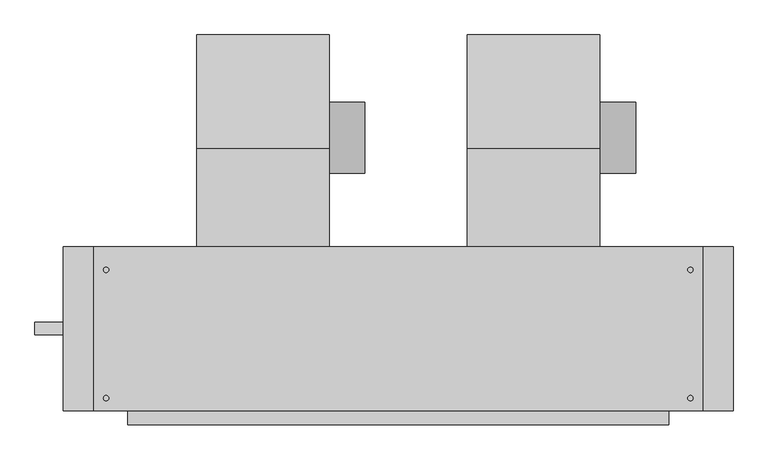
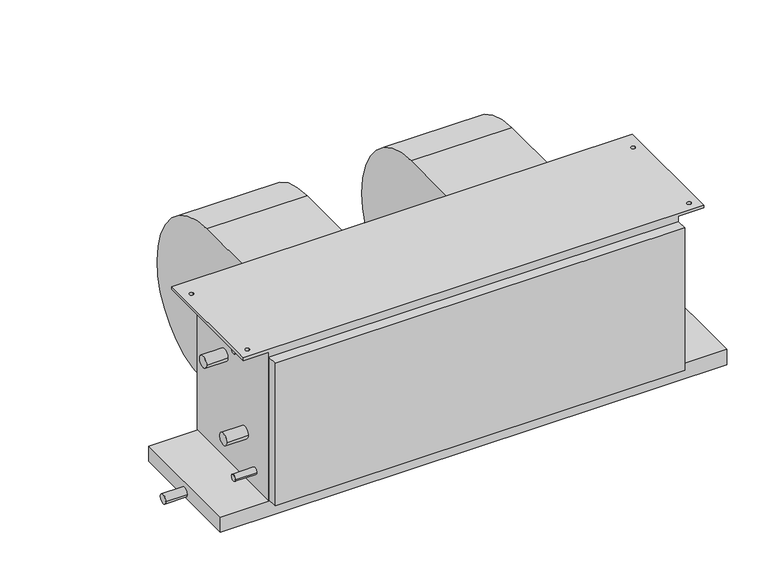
"""IFC4 building model written with IfcOpenShell, lengths in millimetres: proxy geometry, Concealed_High_Capacity_Horizontal_Fan_Coil_Unit_-_42DAA_-_CARRIER_-_4-Pipe_LH_2022 : Size 16 - 277v/60Hz/1Ph - 6/2 Coil."""

import ifcopenshell
import ifcopenshell.guid

model = None  # the IFC model being written
_history = None  # IfcOwnerHistory: only IFC2X3 demands one
_inside = {}  # id of a spatial element -> (the spatial element, [elements in it])
_under = {}  # id of a project, library or spatial element -> (it, [spatial elements below it])
_declared = {}  # id of a project -> (the project, [libraries it declares])
_typed = {}  # id of a type object -> (the type object, [elements of that type])
_made_of = {}  # id of a material, layer set ... -> (it, [elements and type objects made of it])


def new_model(schema):
    """Start an empty IFC model of exactly this schema.

    Asked for "IFC4X3", IfcOpenShell would pick the latest addendum, in which some entities
    have other attributes; the version numbers below select the first issue.
    IFC2X3 requires an IfcOwnerHistory on every rooted entity: one is made here for all.
    """
    global model, _history
    if schema == "IFC4X3":
        model = ifcopenshell.file(schema_version=(4, 3, 0, 0))
    else:
        model = ifcopenshell.file(schema=schema)
    _inside.clear()
    _under.clear()
    _declared.clear()
    _typed.clear()
    _made_of.clear()
    _history = None
    if model.schema == "IFC2X3":
        org = make("IfcOrganization", Name="unknown")
        user = make(
            "IfcPersonAndOrganization",
            ThePerson=make("IfcPerson", FamilyName="unknown"),
            TheOrganization=org,
        )
        app = make(
            "IfcApplication",
            ApplicationDeveloper=org,
            Version="unknown",
            ApplicationFullName="unknown",
            ApplicationIdentifier="unknown",
        )
        _history = make(
            "IfcOwnerHistory",
            OwningUser=user,
            OwningApplication=app,
            ChangeAction="ADDED",
            CreationDate=0,
        )
    return model


def make(cls, **values):
    """One entity of the class cls with the attributes given. An attribute that is None is left unset."""
    return model.create_entity(
        cls, **{name: value for name, value in values.items() if value is not None}
    )


def rooted(cls, **values):
    """An entity with a GlobalId (a new one), such as an element, a storey or a relation."""
    return make(cls, GlobalId=ifcopenshell.guid.new(), OwnerHistory=_history, **values)


def si_unit(unit_type, name, prefix=None):
    """IfcSIUnit, for example si_unit("LENGTHUNIT", "METRE", prefix="MILLI")."""
    return make("IfcSIUnit", UnitType=unit_type, Prefix=prefix, Name=name)


def assignment(units):
    """IfcUnitAssignment: the units of a project."""
    return None if units is None else make("IfcUnitAssignment", Units=units)


def point(xyz):
    """IfcCartesianPoint."""
    return None if xyz is None else make("IfcCartesianPoint", Coordinates=xyz)


def direction(xyz):
    """IfcDirection."""
    return None if xyz is None else make("IfcDirection", DirectionRatios=xyz)


def frame(location, z_axis=None, x_axis=None):
    """IfcAxis2Placement3D, a coordinate frame: its origin and axes. An axis left out is left unset."""
    return make(
        "IfcAxis2Placement3D",
        Location=point(location),
        Axis=direction(z_axis),
        RefDirection=direction(x_axis),
    )


def frame_2d(location, x_axis=None):
    """IfcAxis2Placement2D, a coordinate frame in the plane: its origin and x axis."""
    return make(
        "IfcAxis2Placement2D", Location=point(location), RefDirection=direction(x_axis)
    )


def origin():
    """The frame at (0, 0, 0) with its axes left unset."""
    return frame((0.0, 0.0, 0.0))


def place(relative_to, where):
    """IfcLocalPlacement: puts the frame where relative to a parent placement (None: the world)."""
    return make(
        "IfcLocalPlacement", PlacementRelTo=relative_to, RelativePlacement=where
    )


def context(
    kind, dimensions, precision=None, world=None, true_north=None, identifier=None
):
    """IfcGeometricRepresentationContext, for example the 3D "Model" context."""
    return make(
        "IfcGeometricRepresentationContext",
        ContextIdentifier=identifier,
        ContextType=kind,
        CoordinateSpaceDimension=dimensions,
        Precision=precision,
        WorldCoordinateSystem=world,
        TrueNorth=true_north,
    )


def project(units=None, contexts=None):
    """IfcProject with its units and contexts."""
    return rooted(
        "IfcProject",
        Name="project",
        RepresentationContexts=contexts,
        UnitsInContext=assignment(units),
    )


def spatial(cls, under=None, at=None, **own):
    """A site, building, storey or space (cls), placed at a placement, below another one or the project."""
    s = rooted(cls, ObjectPlacement=at, **own)
    if under is not None:
        _under.setdefault(under.id(), (under, []))[1].append(s)
    return s


def polyline(points):
    """IfcPolyline through the points."""
    return make("IfcPolyline", Points=[point(p) for p in points])


def circle_curve(where, radius):
    """IfcCircle in the frame where."""
    return make("IfcCircle", Position=where, Radius=radius)


def trimmed(basis, trim1, trim2, sense, master):
    """IfcTrimmedCurve: the piece of a basis curve between two trims."""
    return make(
        "IfcTrimmedCurve",
        BasisCurve=basis,
        Trim1=trim1,
        Trim2=trim2,
        SenseAgreement=sense,
        MasterRepresentation=master,
    )


def segment(curve, same_sense, transition):
    """IfcCompositeCurveSegment."""
    return make(
        "IfcCompositeCurveSegment",
        Transition=transition,
        SameSense=same_sense,
        ParentCurve=curve,
    )


def composite_curve(segments, self_intersect=None):
    """IfcCompositeCurve: segments joined end to end."""
    return make("IfcCompositeCurve", Segments=segments, SelfIntersect=self_intersect)


def outline(outer, holes=None, kind="AREA"):
    """IfcArbitraryClosedProfileDef: a profile drawn as a closed curve; with holes, ...WithVoids."""
    if holes is None:
        return make("IfcArbitraryClosedProfileDef", ProfileType=kind, OuterCurve=outer)
    return make(
        "IfcArbitraryProfileDefWithVoids",
        ProfileType=kind,
        OuterCurve=outer,
        InnerCurves=holes,
    )


def extrude(swept, where, along, depth):
    """IfcExtrudedAreaSolid: the profile swept, set in the frame where, extruded along a direction by depth."""
    return make(
        "IfcExtrudedAreaSolid",
        SweptArea=swept,
        Position=where,
        ExtrudedDirection=direction(along),
        Depth=depth,
    )


def shape(context_of_items, identifier, shape_type, items):
    """IfcShapeRepresentation: the items that make up one representation, for example the "Body"."""
    return make(
        "IfcShapeRepresentation",
        ContextOfItems=context_of_items,
        RepresentationIdentifier=identifier,
        RepresentationType=shape_type,
        Items=items,
    )


def source(mapping_origin, context_of_items, identifier, shape_type, items):
    """IfcRepresentationMap: a shape defined once, which mapped items show again and again."""
    return make(
        "IfcRepresentationMap",
        MappingOrigin=mapping_origin,
        MappedRepresentation=shape(context_of_items, identifier, shape_type, items),
    )


def transform(
    local_origin,
    x_axis=None,
    y_axis=None,
    z_axis=None,
    scale=None,
    scale2=None,
    scale3=None,
    uniform=True,
):
    """IfcCartesianTransformationOperator3D, or its non-uniform kind. x_axis, y_axis, z_axis: its Axis1, 2, 3."""
    if uniform:
        return make(
            "IfcCartesianTransformationOperator3D",
            Axis1=direction(x_axis),
            Axis2=direction(y_axis),
            LocalOrigin=point(local_origin),
            Scale=scale,
            Axis3=direction(z_axis),
        )
    return make(
        "IfcCartesianTransformationOperator3DnonUniform",
        Axis1=direction(x_axis),
        Axis2=direction(y_axis),
        LocalOrigin=point(local_origin),
        Scale=scale,
        Axis3=direction(z_axis),
        Scale2=scale2,
        Scale3=scale3,
    )


def mapped(mapping_source, mapping_target):
    """IfcMappedItem: shows the shape of a source again, moved by a transform."""
    return make(
        "IfcMappedItem", MappingSource=mapping_source, MappingTarget=mapping_target
    )


def made_of(thing, what):
    """Note that an element or type object is made of a material, layer set ...; save() writes the relation."""
    if what is not None:
        _made_of.setdefault(what.id(), (what, []))[1].append(thing)
    return thing


def element(
    cls,
    number,
    at=None,
    inside=None,
    cuts=None,
    type_object=None,
    material=None,
    context=None,
    identifier="Body",
    shape_type=None,
    held_by="IfcProductDefinitionShape",
    body=None,
    shapes=None,
    **own,
):
    """One element of the class cls, such as IfcWall. Its Tag is "e" and its number.

    at: its placement. inside: the storey or other place that contains it. cuts: it is an
    opening in that element (IfcRelVoidsElement). A single representation is given by context,
    identifier, shape_type and body (its items); several are given by shapes. held_by: the class
    of the entity that holds the representations. save() writes the other relations.
    """
    e = rooted(cls, Tag="e%d" % number, ObjectPlacement=at, **own)
    if body is not None:
        shapes = [shape(context, identifier, shape_type, body)]
    if shapes is not None:
        e.Representation = make(held_by, Representations=shapes)
    if inside is not None:
        _inside.setdefault(inside.id(), (inside, []))[1].append(e)
    if cuts is not None:
        rooted(
            "IfcRelVoidsElement", RelatingBuildingElement=cuts, RelatedOpeningElement=e
        )
    if type_object is not None:
        _typed.setdefault(type_object.id(), (type_object, []))[1].append(e)
    return made_of(e, material)


def aggregate(whole, parts):
    """IfcRelAggregates: a whole, such as a stair, and the parts it consists of."""
    return rooted("IfcRelAggregates", RelatingObject=whole, RelatedObjects=parts)


def save(model, path):
    """Write the relations noted so far, then the file.

    IfcRelAggregates (storeys below a building ...), IfcRelContainedInSpatialStructure (elements
    in a storey), IfcRelDefinesByType, IfcRelAssociatesMaterial and IfcRelDeclares: one each for
    every whole, place, type object, material and project.
    """
    for whole, parts in _under.values():
        aggregate(whole, parts)
    for where, things in _inside.values():
        rooted(
            "IfcRelContainedInSpatialStructure",
            RelatedElements=things,
            RelatingStructure=where,
        )
    for kind, things in _typed.values():
        rooted("IfcRelDefinesByType", RelatedObjects=things, RelatingType=kind)
    for what, things in _made_of.values():
        rooted("IfcRelAssociatesMaterial", RelatedObjects=things, RelatingMaterial=what)
    for by, libraries in _declared.values():
        rooted("IfcRelDeclares", RelatingContext=by, RelatedDefinitions=libraries)
    model.write(path)


def plane_surface(at):
    """IfcPlane: the flat surface through the origin of the frame at, square to its z axis."""
    return make("IfcPlane", Position=at)


def cylinder_surface(at, radius):
    """IfcCylindricalSurface: all points at the distance radius from the z axis of the frame at."""
    return make("IfcCylindricalSurface", Position=at, Radius=radius)


def revolved_surface(curve, axis_point, axis_direction):
    """IfcSurfaceOfRevolution: the curve turned about the line through axis_point along axis_direction."""
    return make(
        "IfcSurfaceOfRevolution",
        SweptCurve=make("IfcArbitraryOpenProfileDef", ProfileType="CURVE", Curve=curve),
        AxisPosition=make("IfcAxis1Placement", Location=point(axis_point), Axis=direction(axis_direction)),
    )


def advanced_brep(points, edges, surfaces, faces):
    """IfcAdvancedBrep: a solid bounded by faces that lie on surfaces and meet in shared edges.

    An edge is (start, end): straight between two places in points (the first is 0);
    or (start, end, curve); or (start, end, curve, False) where it runs against its curve.
    A face is (place in surfaces, loops), or (place, loops, False) where it looks against
    its surface's normal. A loop lists edges by number (the first is 1), with a minus sign
    where the edge is run from its end to its start. The first loop is the outer one.
    """
    corners = [point(p) for p in points]
    vertices = [make("IfcVertexPoint", VertexGeometry=c) for c in corners]
    made = []
    for start, end, *more in edges:
        made.append(
            make(
                "IfcEdgeCurve",
                EdgeStart=vertices[start],
                EdgeEnd=vertices[end],
                EdgeGeometry=more[0] if more else make("IfcPolyline", Points=[corners[start], corners[end]]),
                SameSense=more[1] if len(more) > 1 else True,
            )
        )
    hull = []
    for where, loops, *sense in faces:
        bounds = []
        for j, loop in enumerate(loops):
            ring = [make("IfcOrientedEdge", EdgeElement=made[abs(k) - 1], Orientation=k > 0) for k in loop]
            bounds.append(
                make(
                    "IfcFaceOuterBound" if j == 0 else "IfcFaceBound",
                    Bound=make("IfcEdgeLoop", EdgeList=ring),
                    Orientation=True,
                )
            )
        hull.append(make("IfcAdvancedFace", Bounds=bounds, FaceSurface=surfaces[where], SameSense=sense[0] if sense else True))
    return make("IfcAdvancedBrep", Outer=make("IfcClosedShell", CfsFaces=hull))


def mechanical_equipment_1f24bf90(model_context):
    return source(origin(), model_context, "Body", "SolidModel", [
        extrude(outline(composite_curve([segment(trimmed(circle_curve(frame_2d((117.8757598, -213.2397468)), 63.5), [point((181.3757598, -213.2397468))], [point((54.3757598, -213.2397468))], False, "CARTESIAN"), True, "CONTINUOUS"), segment(trimmed(circle_curve(frame_2d((117.8757598, -213.2397468)), 63.5), [point((54.3757598, -213.2397468))], [point((181.3757598, -213.2397468))], False, "CARTESIAN"), True, "CONTINUOUS")], self_intersect=False)), frame((156.337, 0.0, 0.0), z_axis=(1.0, 0.0, 0.0), x_axis=(0.0, 1.0, 0.0)), (0.0, 0.0, 1.0), 63.5),
        advanced_brep(
        [(-80.137, 301.3905957, -228.379602), (-80.137, 120.4976, -409.99664), (-80.137, -35.0266, -283.45638), (-80.137, -76.2, -283.45638), (-80.137, -76.2, -25.4), (-80.137, 98.8830093, -25.4), (156.337, 301.3905957, -228.379602), (156.337, 98.8830093, -25.4), (156.337, -76.2, -25.4), (156.337, -76.2, -283.45638), (156.337, -35.0266, -283.45638), (156.337, 120.497599, -409.9957839)],
        [
            (0, 1, circle_curve(frame((-80.137, 120.31726, -228.92258), z_axis=(-1.0, 0.0, 0.0), x_axis=(0.0, -1.0, 0.0)), 181.0741498)),
            (1, 2, circle_curve(frame((-80.137, 120.31726, -251.37364), z_axis=(-1.0, 0.0, 0.0), x_axis=(0.0, -1.0, 0.0)), 158.6222464)),
            (2, 3),
            (3, 4),
            (4, 5),
            (5, 0, circle_curve(frame((-80.137, 97.8662, -228.92258), z_axis=(-1.0, 0.0, 0.0), x_axis=(0.0, -1.0, 0.0)), 203.52512)),
            (6, 7, circle_curve(frame((156.337, 97.8662, -228.92258), z_axis=(1.0, 0.0, 0.0), x_axis=(0.0, -1.0, 0.0)), 203.52512)),
            (7, 8),
            (8, 9),
            (9, 10),
            (10, 11, circle_curve(frame((156.337, 120.31726, -251.37364), z_axis=(1.0, 0.0, 0.0), x_axis=(0.0, -1.0, 0.0)), 158.6222464)),
            (11, 6, circle_curve(frame((156.337, 120.31726, -228.92258), z_axis=(1.0, 0.0, 0.0), x_axis=(0.0, -1.0, 0.0)), 181.0741498)),
            (0, 6),
            (11, 1),
            (10, 2),
            (9, 3),
            (8, 4),
            (7, 5),
        ],
        [
            plane_surface(frame((-80.137, -60.7568898, -228.92258), z_axis=(-1.0, 0.0, 0.0), x_axis=(0.0, 0.0, 1.0))),
            plane_surface(frame((156.337, -60.7568898, -228.92258), z_axis=(1.0, 0.0, 0.0), x_axis=(0.0, 0.0, -1.0))),
            cylinder_surface(frame((156.337, 120.31726, -228.92258), z_axis=(-1.0, 0.0, 0.0), x_axis=(0.0, -1.0, 0.0)), 181.0741498),
            cylinder_surface(frame((156.337, 120.31726, -251.37364), z_axis=(-1.0, 0.0, 0.0), x_axis=(0.0, -1.0, 0.0)), 158.6222464),
            plane_surface(frame((-80.137, -35.0266, -283.45638), z_axis=(0.0, 0.0, -1.0), x_axis=(1.0, 0.0, 0.0))),
            plane_surface(frame((-80.137, -76.2, -283.45638), z_axis=(0.0, -1.0, 0.0), x_axis=(1.0, 0.0, 0.0))),
            plane_surface(frame((-80.137, -76.2, -25.4), z_axis=(0.0, 0.0, 1.0), x_axis=(1.0, 0.0, 0.0))),
            cylinder_surface(frame((156.337, 97.8662, -228.92258), z_axis=(-1.0, 0.0, 0.0), x_axis=(0.0, -1.0, 0.0)), 203.52512),
        ],
        [
            (0, [[1, 2, 3, 4, 5, 6]]),
            (1, [[7, 8, 9, 10, 11, 12]]),
            (2, [[-1, 13, -12, 14]]),
            (3, [[-2, -14, -11, 15]]),
            (4, [[-3, -15, -10, 16]]),
            (5, [[-4, -16, -9, 17]]),
            (6, [[-5, -17, -8, 18]]),
            (7, [[-6, -18, -7, -13]]),
        ],
    ),
        extrude(outline(composite_curve([segment(trimmed(circle_curve(frame_2d((117.8757598, -213.2397468)), 63.5), [point((181.3757598, -213.2397468))], [point((54.3757598, -213.2397468))], False, "CARTESIAN"), True, "CONTINUOUS"), segment(trimmed(circle_curve(frame_2d((117.8757598, -213.2397468)), 63.5), [point((54.3757598, -213.2397468))], [point((181.3757598, -213.2397468))], False, "CARTESIAN"), True, "CONTINUOUS")], self_intersect=False)), frame((638.937, 0.0, 0.0), z_axis=(1.0, 0.0, 0.0), x_axis=(0.0, 1.0, 0.0)), (0.0, 0.0, 1.0), 63.5),
        advanced_brep(
        [(402.463, 301.3905957, -228.379602), (402.463, 120.4976, -409.99664), (402.463, -35.0266, -283.45638), (402.463, -76.2, -283.45638), (402.463, -76.2, -25.4), (402.463, 98.8830093, -25.4), (638.937, 301.3905957, -228.379602), (638.937, 98.8830093, -25.4), (638.937, -76.2, -25.4), (638.937, -76.2, -283.45638), (638.937, -35.0266, -283.45638), (638.937, 120.497599, -409.9957839)],
        [
            (0, 1, circle_curve(frame((402.463, 120.31726, -228.92258), z_axis=(-1.0, 0.0, 0.0), x_axis=(0.0, -1.0, 0.0)), 181.0741498)),
            (1, 2, circle_curve(frame((402.463, 120.31726, -251.37364), z_axis=(-1.0, 0.0, 0.0), x_axis=(0.0, -1.0, 0.0)), 158.6222464)),
            (2, 3),
            (3, 4),
            (4, 5),
            (5, 0, circle_curve(frame((402.463, 97.8662, -228.92258), z_axis=(-1.0, 0.0, 0.0), x_axis=(0.0, -1.0, 0.0)), 203.52512)),
            (6, 7, circle_curve(frame((638.937, 97.8662, -228.92258), z_axis=(1.0, 0.0, 0.0), x_axis=(0.0, -1.0, 0.0)), 203.52512)),
            (7, 8),
            (8, 9),
            (9, 10),
            (10, 11, circle_curve(frame((638.937, 120.31726, -251.37364), z_axis=(1.0, 0.0, 0.0), x_axis=(0.0, -1.0, 0.0)), 158.6222464)),
            (11, 6, circle_curve(frame((638.937, 120.31726, -228.92258), z_axis=(1.0, 0.0, 0.0), x_axis=(0.0, -1.0, 0.0)), 181.0741498)),
            (0, 6),
            (11, 1),
            (10, 2),
            (9, 3),
            (8, 4),
            (7, 5),
        ],
        [
            plane_surface(frame((402.463, -60.7568898, -228.92258), z_axis=(-1.0, 0.0, 0.0), x_axis=(0.0, 0.0, 1.0))),
            plane_surface(frame((638.937, -60.7568898, -228.92258), z_axis=(1.0, 0.0, 0.0), x_axis=(0.0, 0.0, -1.0))),
            cylinder_surface(frame((638.937, 120.31726, -228.92258), z_axis=(-1.0, 0.0, 0.0), x_axis=(0.0, -1.0, 0.0)), 181.0741498),
            cylinder_surface(frame((638.937, 120.31726, -251.37364), z_axis=(-1.0, 0.0, 0.0), x_axis=(0.0, -1.0, 0.0)), 158.6222464),
            plane_surface(frame((402.463, -35.0266, -283.45638), z_axis=(0.0, 0.0, -1.0), x_axis=(1.0, 0.0, 0.0))),
            plane_surface(frame((402.463, -76.2, -283.45638), z_axis=(0.0, -1.0, 0.0), x_axis=(1.0, 0.0, 0.0))),
            plane_surface(frame((402.463, -76.2, -25.4), z_axis=(0.0, 0.0, 1.0), x_axis=(1.0, 0.0, 0.0))),
            cylinder_surface(frame((638.937, 97.8662, -228.92258), z_axis=(-1.0, 0.0, 0.0), x_axis=(0.0, -1.0, 0.0)), 203.52512),
        ],
        [
            (0, [[1, 2, 3, 4, 5, 6]]),
            (1, [[7, 8, 9, 10, 11, 12]]),
            (2, [[-1, 13, -12, 14]]),
            (3, [[-2, -14, -11, 15]]),
            (4, [[-3, -15, -10, 16]]),
            (5, [[-4, -16, -9, 17]]),
            (6, [[-5, -17, -8, 18]]),
            (7, [[-6, -18, -7, -13]]),
        ],
    ),
        extrude(outline(polyline([(876.3, -76.2), (876.3, -368.3), (-317.5, -368.3), (-317.5, -76.2), (876.3, -76.2)])), frame((0.0, 0.0, -415.925), z_axis=(0.0, 0.0, 1.0), x_axis=(1.0, 0.0, 0.0)), (0.0, 0.0, 1.0), 38.1),
        extrude(outline(polyline([(762.0, -393.7), (-203.2, -393.7), (-203.2, -368.3), (762.0, -368.3), (762.0, -393.7)])), frame((0.0, 0.0, -374.65), z_axis=(0.0, 0.0, 1.0), x_axis=(1.0, 0.0, 0.0)), (0.0, 0.0, 1.0), 355.6),
        extrude(outline(composite_curve([segment(trimmed(circle_curve(frame_2d((-222.25, -403.225)), 11.1125), [point((-233.3625, -403.225))], [point((-211.1375, -403.225))], False, "CARTESIAN"), True, "CONTINUOUS"), segment(trimmed(circle_curve(frame_2d((-222.25, -403.225)), 11.1125), [point((-211.1375, -403.225))], [point((-233.3625, -403.225))], False, "CARTESIAN"), True, "CONTINUOUS")], self_intersect=False)), frame((-368.3, 0.0, 0.0), z_axis=(1.0, 0.0, 0.0), x_axis=(0.0, 1.0, 0.0)), (0.0, 0.0, 1.0), 50.8),
        extrude(outline(composite_curve([segment(trimmed(circle_curve(frame_2d((-187.325, -122.2375)), 14.2875), [point((-201.6125, -122.2375))], [point((-173.0375, -122.2375))], False, "CARTESIAN"), True, "CONTINUOUS"), segment(trimmed(circle_curve(frame_2d((-187.325, -122.2375)), 14.2875), [point((-173.0375, -122.2375))], [point((-201.6125, -122.2375))], False, "CARTESIAN"), True, "CONTINUOUS")], self_intersect=False)), frame((-254.0, 0.0, 0.0), z_axis=(1.0, 0.0, 0.0), x_axis=(0.0, 1.0, 0.0)), (0.0, 0.0, 1.0), 50.8),
        extrude(outline(composite_curve([segment(trimmed(circle_curve(frame_2d((-269.875, -265.1125)), 14.2875), [point((-284.1625, -265.1125))], [point((-255.5875, -265.1125))], False, "CARTESIAN"), True, "CONTINUOUS"), segment(trimmed(circle_curve(frame_2d((-269.875, -265.1125)), 14.2875), [point((-255.5875, -265.1125))], [point((-284.1625, -265.1125))], False, "CARTESIAN"), True, "CONTINUOUS")], self_intersect=False)), frame((-254.0, 0.0, 0.0), z_axis=(1.0, 0.0, 0.0), x_axis=(0.0, 1.0, 0.0)), (0.0, 0.0, 1.0), 50.8),
        extrude(outline(composite_curve([segment(trimmed(circle_curve(frame_2d((-311.15, -19.05)), 7.9375), [point((-319.0875, -19.05))], [point((-303.2125, -19.05))], False, "CARTESIAN"), True, "CONTINUOUS"), segment(trimmed(circle_curve(frame_2d((-311.15, -19.05)), 7.9375), [point((-303.2125, -19.05))], [point((-319.0875, -19.05))], False, "CARTESIAN"), True, "CONTINUOUS")], self_intersect=False)), frame((-254.0, 0.0, 0.0), z_axis=(1.0, 0.0, 0.0), x_axis=(0.0, 1.0, 0.0)), (0.0, 0.0, 1.0), 50.8),
        extrude(outline(composite_curve([segment(trimmed(circle_curve(frame_2d((-311.15, -336.55)), 7.9375), [point((-319.0875, -336.55))], [point((-303.2125, -336.55))], False, "CARTESIAN"), True, "CONTINUOUS"), segment(trimmed(circle_curve(frame_2d((-311.15, -336.55)), 7.9375), [point((-303.2125, -336.55))], [point((-319.0875, -336.55))], False, "CARTESIAN"), True, "CONTINUOUS")], self_intersect=False)), frame((-254.0, 0.0, 0.0), z_axis=(1.0, 0.0, 0.0), x_axis=(0.0, 1.0, 0.0)), (0.0, 0.0, 1.0), 50.8),
        advanced_brep(
        [(762.0, -76.2, -377.825), (762.0, -368.3, -377.825), (-203.2, -368.3, -377.825), (-203.2, -76.2, -377.825), (-203.2, -368.3, -6.35), (-203.2, -76.2, -6.35), (762.0, -76.2, -6.35), (762.0, -368.3, -6.35), (-263.525, -76.2, 0.0), (-263.525, -368.3, 0.0), (822.325, -368.3, 0.0), (822.325, -76.2, 0.0), (-236.5375, -117.475, 0.0), (-246.0625, -117.475, 0.0), (-236.5375, -346.075, 0.0), (-246.0625, -346.075, 0.0), (804.8625, -117.475, 0.0), (795.3375, -117.475, 0.0), (804.8625, -346.075, 0.0), (795.3375, -346.075, 0.0), (-263.525, -76.2, -6.35), (-263.525, -368.3, -6.35), (-246.0625, -117.475, -6.35), (-236.5375, -117.475, -6.35), (-246.0625, -346.075, -6.35), (-236.5375, -346.075, -6.35), (822.325, -76.2, -6.35), (822.325, -368.3, -6.35), (795.3375, -117.475, -6.35), (804.8625, -117.475, -6.35), (795.3375, -346.075, -6.35), (804.8625, -346.075, -6.35)],
        [
            (0, 1),
            (1, 2),
            (2, 3),
            (3, 0),
            (2, 4),
            (4, 5),
            (5, 3),
            (0, 6),
            (6, 7),
            (7, 1),
            (8, 9),
            (9, 10),
            (10, 11),
            (11, 8),
            (12, 13, circle_curve(frame((-241.3, -117.475, 0.0), z_axis=(0.0, 0.0, -1.0), x_axis=(1.0, 0.0, 0.0)), 4.7625)),
            (13, 12, circle_curve(frame((-241.3, -117.475, 0.0), z_axis=(0.0, 0.0, -1.0), x_axis=(1.0, 0.0, 0.0)), 4.7625)),
            (14, 15, circle_curve(frame((-241.3, -346.075, 0.0), z_axis=(0.0, 0.0, -1.0), x_axis=(1.0, 0.0, 0.0)), 4.7625)),
            (15, 14, circle_curve(frame((-241.3, -346.075, 0.0), z_axis=(0.0, 0.0, -1.0), x_axis=(1.0, 0.0, 0.0)), 4.7625)),
            (16, 17, circle_curve(frame((800.1, -117.475, 0.0), z_axis=(0.0, 0.0, -1.0), x_axis=(1.0, 0.0, 0.0)), 4.7625)),
            (17, 16, circle_curve(frame((800.1, -117.475, 0.0), z_axis=(0.0, 0.0, -1.0), x_axis=(1.0, 0.0, 0.0)), 4.7625)),
            (18, 19, circle_curve(frame((800.1, -346.075, 0.0), z_axis=(0.0, 0.0, -1.0), x_axis=(1.0, 0.0, 0.0)), 4.7625)),
            (19, 18, circle_curve(frame((800.1, -346.075, 0.0), z_axis=(0.0, 0.0, -1.0), x_axis=(1.0, 0.0, 0.0)), 4.7625)),
            (20, 5),
            (4, 21),
            (21, 20),
            (22, 23, circle_curve(frame((-241.3, -117.475, -6.35), z_axis=(0.0, 0.0, 1.0), x_axis=(1.0, 0.0, 0.0)), 4.7625)),
            (23, 22, circle_curve(frame((-241.3, -117.475, -6.35), z_axis=(0.0, 0.0, 1.0), x_axis=(1.0, 0.0, 0.0)), 4.7625)),
            (24, 25, circle_curve(frame((-241.3, -346.075, -6.35), z_axis=(0.0, 0.0, 1.0), x_axis=(1.0, 0.0, 0.0)), 4.7625)),
            (25, 24, circle_curve(frame((-241.3, -346.075, -6.35), z_axis=(0.0, 0.0, 1.0), x_axis=(1.0, 0.0, 0.0)), 4.7625)),
            (26, 27),
            (27, 7),
            (6, 26),
            (28, 29, circle_curve(frame((800.1, -117.475, -6.35), z_axis=(0.0, 0.0, 1.0), x_axis=(1.0, 0.0, 0.0)), 4.7625)),
            (29, 28, circle_curve(frame((800.1, -117.475, -6.35), z_axis=(0.0, 0.0, 1.0), x_axis=(1.0, 0.0, 0.0)), 4.7625)),
            (30, 31, circle_curve(frame((800.1, -346.075, -6.35), z_axis=(0.0, 0.0, 1.0), x_axis=(1.0, 0.0, 0.0)), 4.7625)),
            (31, 30, circle_curve(frame((800.1, -346.075, -6.35), z_axis=(0.0, 0.0, 1.0), x_axis=(1.0, 0.0, 0.0)), 4.7625)),
            (8, 20),
            (21, 9),
            (27, 10),
            (11, 26),
            (12, 23),
            (22, 13),
            (14, 25),
            (24, 15),
            (16, 29),
            (28, 17),
            (18, 31),
            (30, 19),
        ],
        [
            plane_surface(frame((-203.2, -76.2, -377.825), z_axis=(0.0, 0.0, -1.0), x_axis=(1.0, 0.0, 0.0))),
            plane_surface(frame((-203.2, -76.2, 0.0), z_axis=(-1.0, 0.0, 0.0), x_axis=(0.0, 0.0, -1.0))),
            plane_surface(frame((762.0, -368.3, 0.0), z_axis=(1.0, 0.0, 0.0), x_axis=(0.0, 0.0, -1.0))),
            plane_surface(frame((-263.525, -76.2, 0.0), z_axis=(0.0, 0.0, 1.0), x_axis=(0.0, -1.0, 0.0))),
            plane_surface(frame((-263.525, -76.2, -6.35), z_axis=(0.0, 0.0, -1.0), x_axis=(0.0, 1.0, 0.0))),
            plane_surface(frame((-263.525, -76.2, 0.0), z_axis=(-1.0, 0.0, 0.0), x_axis=(0.0, 0.0, -1.0))),
            plane_surface(frame((-263.525, -368.3, 0.0), z_axis=(0.0, -1.0, 0.0), x_axis=(0.0, 0.0, -1.0))),
            plane_surface(frame((-203.2, -76.2, 0.0), z_axis=(0.0, 1.0, 0.0), x_axis=(0.0, 0.0, -1.0))),
            plane_surface(frame((822.325, -368.3, 0.0), z_axis=(1.0, 0.0, 0.0), x_axis=(0.0, 0.0, -1.0))),
            revolved_surface(polyline([(-236.53750000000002, -117.475, 0.0), (-236.53750000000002, -117.475, -6.35)]), (-241.3, -117.475, -6.35), (0.0, 0.0, 1.0)),
            revolved_surface(polyline([(-236.53750000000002, -346.075, 0.0), (-236.53750000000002, -346.075, -6.35)]), (-241.3, -346.075, 0.0), (0.0, 0.0, 1.0)),
            revolved_surface(polyline([(804.8625000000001, -117.475, 0.0), (804.8625000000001, -117.475, -6.35)]), (800.1, -117.475, 0.0), (0.0, 0.0, 1.0)),
            revolved_surface(polyline([(804.8625000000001, -346.075, 0.0), (804.8625000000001, -346.075, -6.35)]), (800.1, -346.075, 0.0), (0.0, 0.0, 1.0)),
        ],
        [
            (0, [[1, 2, 3, 4]]),
            (1, [[-3, 5, 6, 7]]),
            (2, [[-1, 8, 9, 10]]),
            (3, [[11, 12, 13, 14], [15, 16], [17, 18], [19, 20], [21, 22]]),
            (4, [[23, -6, 24, 25], [26, 27], [28, 29]]),
            (4, [[30, 31, -9, 32], [33, 34], [35, 36]]),
            (5, [[-11, 37, -25, 38]]),
            (6, [[-12, -38, -24, -5, -2, -10, -31, 39]]),
            (7, [[-14, 40, -32, -8, -4, -7, -23, -37]]),
            (8, [[-13, -39, -30, -40]]),
            (9, [[41, -26, 42, -15]]),
            (9, [[-41, -16, -42, -27]]),
            (10, [[43, -28, 44, -17]]),
            (10, [[-43, -18, -44, -29]]),
            (11, [[45, -33, 46, -19]]),
            (11, [[-45, -20, -46, -34]]),
            (12, [[47, -35, 48, -21]]),
            (12, [[-47, -22, -48, -36]]),
        ],
    ),
    ])


if __name__ == "__main__":
    model = new_model("IFC4")
    model_context = context("Model", 3, world=origin())
    ifc_project = project(units=[si_unit("LENGTHUNIT", "METRE", prefix="MILLI")], contexts=[model_context])
    site = spatial("IfcSite", under=ifc_project)
    building = spatial("IfcBuilding", under=site)
    placement = place(None, origin())
    mechanical_equipment_shape = mechanical_equipment_1f24bf90(model_context)
    element("IfcBuildingElementProxy", 1, Name="Concealed_High_Capacity_Horizontal_Fan_Coil_Unit_-_42DAA_-_CARRIER_-_4-Pipe_LH_2022 : Size 16 - 277v/60Hz/1Ph - 6/2 Coil", ObjectType="Concealed_High_Capacity_Horizontal_Fan_Coil_Unit_-_42DAA_-_CARRIER_-_4-Pipe_LH_2022 : Size 16 - 277v/60Hz/1Ph - 6/2 Coil", at=placement, inside=building, context=model_context, shape_type="MappedRepresentation", body=[
        mapped(mechanical_equipment_shape, transform((0.0, 0.0, 0.0), x_axis=(1.0, 0.0, 0.0), y_axis=(0.0, 1.0, 0.0), z_axis=(0.0, 0.0, 1.0))),
    ])
    save(model, "model.ifc")
